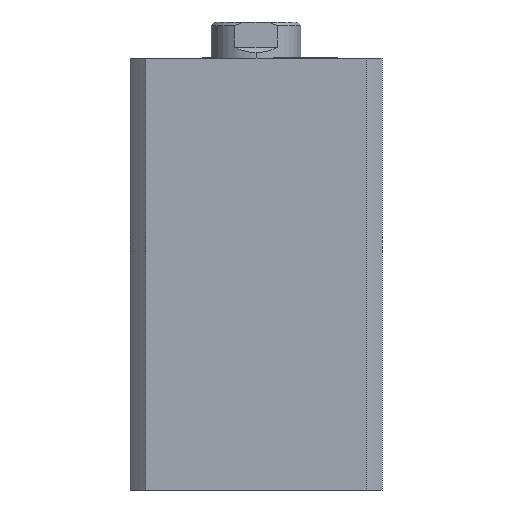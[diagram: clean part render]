
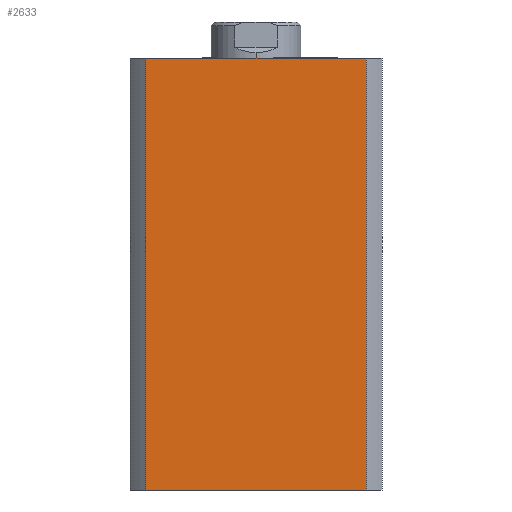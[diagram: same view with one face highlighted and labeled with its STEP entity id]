
A CAD part, left-side view. The second image highlights one B-rep face of the part: STEP entity #2633.
In plain terms, the highlighted planar face has unit normal (-1, 0, 0).
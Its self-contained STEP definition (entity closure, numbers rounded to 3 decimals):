
#309 = DIRECTION ( 'NONE',  ( 0., 0., -1. ) ) ;
#312 = CARTESIAN_POINT ( 'NONE',  ( -35., 30.615, 120. ) ) ;
#313 = CARTESIAN_POINT ( 'NONE',  ( -35., -30.615, 120. ) ) ;
#317 = CARTESIAN_POINT ( 'NONE',  ( -35., 0., 0. ) ) ;
#319 = DIRECTION ( 'NONE',  ( 0., -1., 0. ) ) ;
#320 = DIRECTION ( 'NONE',  ( 0., 0., -1. ) ) ;
#456 = DIRECTION ( 'NONE',  ( 0., -1., 0. ) ) ;
#457 = CARTESIAN_POINT ( 'NONE',  ( -35., 0., 120. ) ) ;
#899 = EDGE_CURVE ( 'NONE', #5079, #4579, #1569, .T. ) ;
#900 = EDGE_CURVE ( 'NONE', #4583, #4579, #1574, .T. ) ;
#901 = EDGE_CURVE ( 'NONE', #5076, #4583, #1573, .T. ) ;
#930 = EDGE_CURVE ( 'NONE', #5076, #5079, #1614, .T. ) ;
#1203 = EDGE_LOOP ( 'NONE', ( #4348, #4347, #4344, #4343 ) ) ;
#1569 = LINE ( 'NONE', #313, #1575 ) ;
#1573 = LINE ( 'NONE', #312, #1579 ) ;
#1574 = LINE ( 'NONE', #317, #1577 ) ;
#1575 = VECTOR ( 'NONE', #309, 1000. ) ;
#1577 = VECTOR ( 'NONE', #319, 1000. ) ;
#1579 = VECTOR ( 'NONE', #320, 1000. ) ;
#1614 = LINE ( 'NONE', #457, #1616 ) ;
#1616 = VECTOR ( 'NONE', #456, 1000. ) ;
#1798 = AXIS2_PLACEMENT_3D ( 'NONE', #2164, #2172, #2173 ) ;
#2164 = CARTESIAN_POINT ( 'NONE',  ( -35., 0., 120. ) ) ;
#2169 = PLANE ( 'NONE',  #1798 ) ;
#2172 = DIRECTION ( 'NONE',  ( 1., 0., 0. ) ) ;
#2173 = DIRECTION ( 'NONE',  ( 0., 1., 0. ) ) ;
#2633 = ADVANCED_FACE ( 'NONE', ( #4742 ), #2169, .F. ) ;
#3426 = CARTESIAN_POINT ( 'NONE',  ( -35., -30.615, 0. ) ) ;
#3430 = CARTESIAN_POINT ( 'NONE',  ( -35., 30.615, 0. ) ) ;
#3553 = CARTESIAN_POINT ( 'NONE',  ( -35., 30.615, 120. ) ) ;
#3556 = CARTESIAN_POINT ( 'NONE',  ( -35., -30.615, 120. ) ) ;
#4343 = ORIENTED_EDGE ( 'NONE', *, *, #901, .T. ) ;
#4344 = ORIENTED_EDGE ( 'NONE', *, *, #930, .F. ) ;
#4347 = ORIENTED_EDGE ( 'NONE', *, *, #899, .F. ) ;
#4348 = ORIENTED_EDGE ( 'NONE', *, *, #900, .T. ) ;
#4579 = VERTEX_POINT ( 'NONE', #3426 ) ;
#4583 = VERTEX_POINT ( 'NONE', #3430 ) ;
#4742 = FACE_OUTER_BOUND ( 'NONE', #1203, .T. ) ;
#5076 = VERTEX_POINT ( 'NONE', #3553 ) ;
#5079 = VERTEX_POINT ( 'NONE', #3556 ) ;
